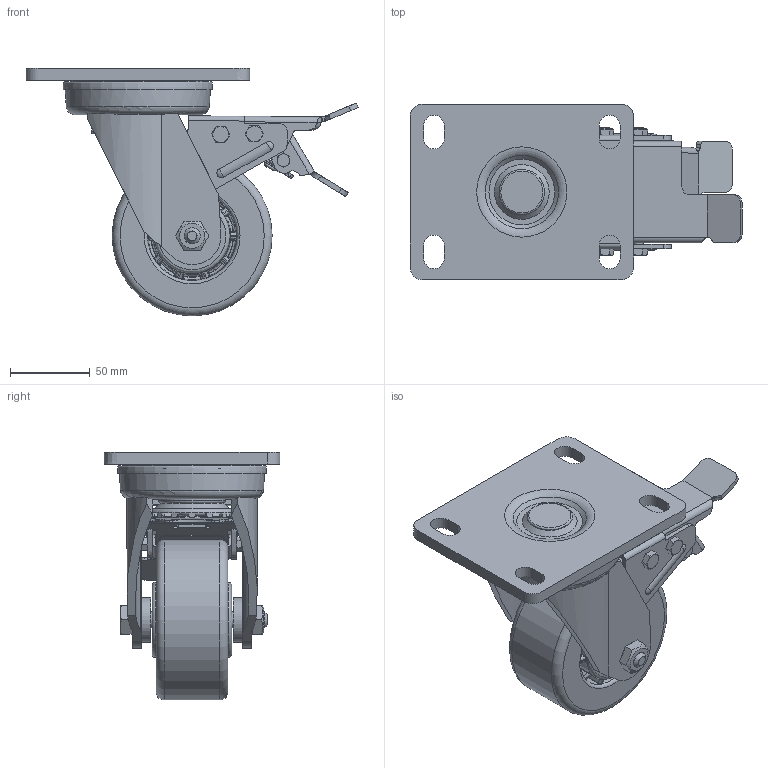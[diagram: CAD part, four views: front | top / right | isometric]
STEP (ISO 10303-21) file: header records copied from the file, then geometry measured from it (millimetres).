
FILE_DESCRIPTION(/* description */ (''),/* implementation_level */ '2;1');
FILE_NAME(/* name */ '36A02_4_F.stp',/* time_stamp */ '2022-08-29T08:52:49+08:00',/* author */ (''),/* organization */ (''),/* preprocessor_version */ 'ST-DEVELOPER v14',/* originating_system */ 'SIEMENS PLM Software NX 8.0',/* authorisation */ '');
FILE_SCHEMA (('AUTOMOTIVE_DESIGN { 1 0 10303 214 3 1 1 1 }'));
Products named in the file (1): 36A02_4_F
Bounding box: 207.83 x 110 x 155.1 mm (x, y, z)
Volume: 667542.2 mm3; surface area: 198501.9 mm2
Topology: 1 solids, 5 shells, 1467 faces, 3707 edges, 2316 vertices
Faces by surface type: plane 570, bspline 375, cylinder 298, extrusion 104, cone 75, torus 35, revolution 6, sphere 4
Full cylindrical faces by diameter (mm): 4 x2, 4.2 x2, 5 x1, 5.2 x3, 5.997 x19, 6 x2, 6.2 x9, 7.78 x1, 9.78 x2, 10.104 x3, 12 x1, 12.2 x2, 12.3 x1, 16.2 x1, 20 x1, 20.5 x2, 22.276 x1, 25 x1, 25.625 x1, 28 x2, 28.256 x1, 28.5 x1, 30.06 x1, 40 x1, 40.5 x1, 41.5 x1, 55 x1, 57 x1, 78 x2, 91.384 x1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
Entity records: 68592 total; most frequent: CARTESIAN_POINT 39654, ORIENTED_EDGE 6918, DIRECTION 4578, EDGE_CURVE 3459, VERTEX_POINT 2215, EDGE_LOOP 1696, AXIS2_PLACEMENT_3D 1635, ADVANCED_FACE 1448
